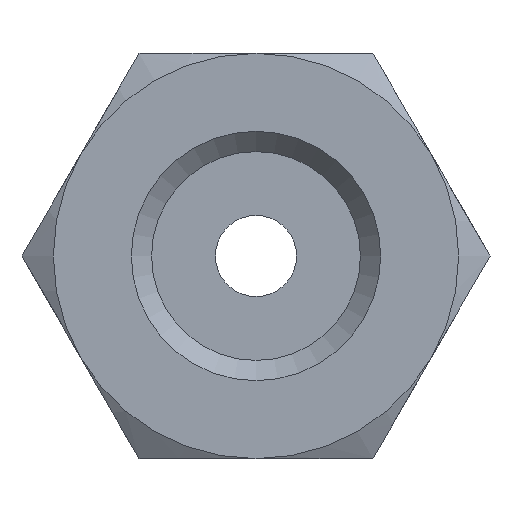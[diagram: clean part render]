
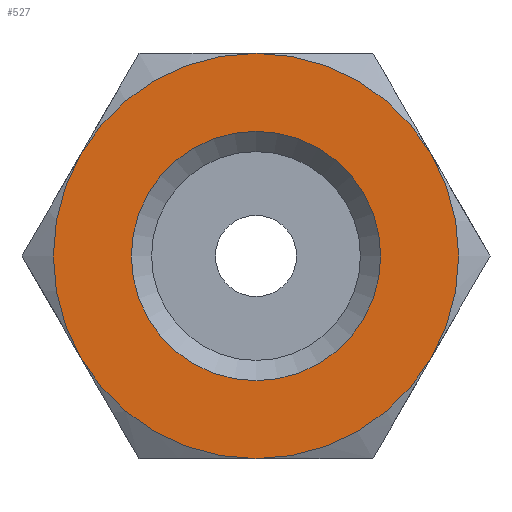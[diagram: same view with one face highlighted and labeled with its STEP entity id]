
A CAD part, front view. The second image highlights one B-rep face of the part: STEP entity #527.
In plain terms, the highlighted planar face has unit normal (0, -1, 0).
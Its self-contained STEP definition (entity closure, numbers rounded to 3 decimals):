
#40=FACE_BOUND('',#153,.T.);
#47=PLANE('',#597);
#116=FACE_OUTER_BOUND('',#152,.T.);
#152=EDGE_LOOP('',(#388,#389,#390,#391,#392,#393));
#153=EDGE_LOOP('',(#394));
#201=CIRCLE('',#596,3.077);
#202=CIRCLE('',#598,5.);
#203=CIRCLE('',#599,5.);
#204=CIRCLE('',#600,5.);
#205=CIRCLE('',#601,5.);
#206=CIRCLE('',#602,5.);
#207=CIRCLE('',#603,5.);
#241=VERTEX_POINT('',#858);
#242=VERTEX_POINT('',#862);
#243=VERTEX_POINT('',#863);
#244=VERTEX_POINT('',#865);
#245=VERTEX_POINT('',#867);
#246=VERTEX_POINT('',#869);
#247=VERTEX_POINT('',#871);
#298=EDGE_CURVE('',#241,#241,#201,.T.);
#299=EDGE_CURVE('',#242,#243,#202,.T.);
#300=EDGE_CURVE('',#243,#244,#203,.T.);
#301=EDGE_CURVE('',#244,#245,#204,.T.);
#302=EDGE_CURVE('',#245,#246,#205,.T.);
#303=EDGE_CURVE('',#246,#247,#206,.T.);
#304=EDGE_CURVE('',#247,#242,#207,.T.);
#388=ORIENTED_EDGE('',*,*,#299,.T.);
#389=ORIENTED_EDGE('',*,*,#300,.T.);
#390=ORIENTED_EDGE('',*,*,#301,.T.);
#391=ORIENTED_EDGE('',*,*,#302,.T.);
#392=ORIENTED_EDGE('',*,*,#303,.T.);
#393=ORIENTED_EDGE('',*,*,#304,.T.);
#394=ORIENTED_EDGE('',*,*,#298,.F.);
#527=ADVANCED_FACE('',(#116,#40),#47,.T.);
#596=AXIS2_PLACEMENT_3D('',#860,#698,#699);
#597=AXIS2_PLACEMENT_3D('',#861,#700,#701);
#598=AXIS2_PLACEMENT_3D('',#864,#702,#703);
#599=AXIS2_PLACEMENT_3D('',#866,#704,#705);
#600=AXIS2_PLACEMENT_3D('',#868,#706,#707);
#601=AXIS2_PLACEMENT_3D('',#870,#708,#709);
#602=AXIS2_PLACEMENT_3D('',#872,#710,#711);
#603=AXIS2_PLACEMENT_3D('',#873,#712,#713);
#698=DIRECTION('center_axis',(0.,-1.,0.));
#699=DIRECTION('ref_axis',(-1.,0.,0.));
#700=DIRECTION('center_axis',(0.,-1.,0.));
#701=DIRECTION('ref_axis',(0.,0.,-1.));
#702=DIRECTION('center_axis',(0.,-1.,0.));
#703=DIRECTION('ref_axis',(1.,0.,0.));
#704=DIRECTION('center_axis',(0.,-1.,0.));
#705=DIRECTION('ref_axis',(1.,0.,0.));
#706=DIRECTION('center_axis',(0.,-1.,0.));
#707=DIRECTION('ref_axis',(1.,0.,0.));
#708=DIRECTION('center_axis',(0.,-1.,0.));
#709=DIRECTION('ref_axis',(1.,0.,0.));
#710=DIRECTION('center_axis',(0.,-1.,0.));
#711=DIRECTION('ref_axis',(1.,0.,0.));
#712=DIRECTION('center_axis',(0.,-1.,0.));
#713=DIRECTION('ref_axis',(1.,0.,0.));
#858=CARTESIAN_POINT('',(3.077,0.,0.));
#860=CARTESIAN_POINT('Origin',(0.,0.,0.));
#861=CARTESIAN_POINT('Origin',(2.577,0.,0.));
#862=CARTESIAN_POINT('',(-4.33,0.,2.5));
#863=CARTESIAN_POINT('',(-4.33,0.,-2.5));
#864=CARTESIAN_POINT('Origin',(0.,0.,0.));
#865=CARTESIAN_POINT('',(0.,0.,-5.));
#866=CARTESIAN_POINT('Origin',(0.,0.,0.));
#867=CARTESIAN_POINT('',(4.33,0.,-2.5));
#868=CARTESIAN_POINT('Origin',(0.,0.,0.));
#869=CARTESIAN_POINT('',(4.33,0.,2.5));
#870=CARTESIAN_POINT('Origin',(0.,0.,0.));
#871=CARTESIAN_POINT('',(0.,0.,5.));
#872=CARTESIAN_POINT('Origin',(0.,0.,0.));
#873=CARTESIAN_POINT('Origin',(0.,0.,0.));
